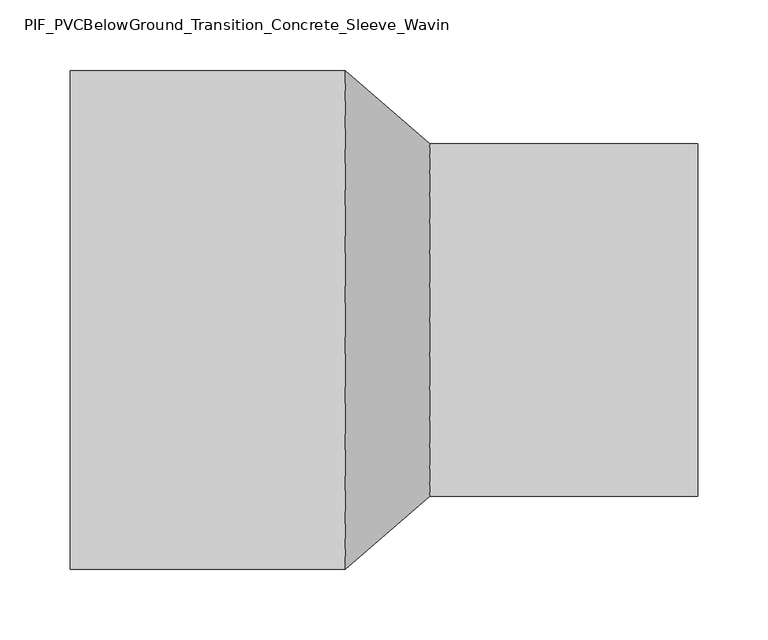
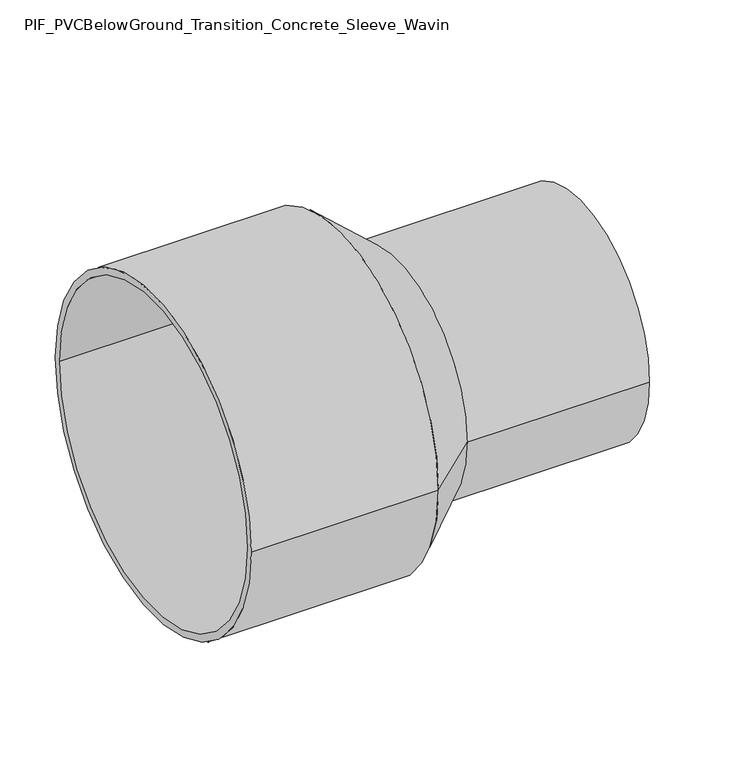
"""IFC4 building model written with IfcOpenShell, lengths in millimetres: pipe fitting geometry, PIF_PVCBelowGround_Transition_Concrete_Sleeve_Wavin : PVC Brown RAL8012 OD 250/400."""

from ifc_helpers import new_model, si_unit, frame, origin, place, context, project, spatial, polyline, circle_curve, source, transform, mapped, element, save
from ifc_brep_helpers import plane_surface, cylinder_surface, revolved_surface, advanced_brep


def pif_pvcbelowground_transition_concrete_sleeve_wavin_711183fe(model_context):
    return source(origin(), model_context, "Body", "AdvancedBrep", [
        advanced_brep(
        [(-195.0, -177.0, 0.0), (-195.0, 177.0, 0.0), (-195.0, -169.5, 0.0), (-195.0, 169.5, 0.0), (0.0, 177.0, 0.0), (0.0, -177.0, 0.0), (0.0, 169.5, 0.0), (0.0, -169.5, 0.0), (60.0, 117.7, 0.0), (60.0, -117.7, 0.0), (60.0, 125.0, 0.0), (60.0, -125.0, 0.0), (250.0, -125.0, 0.0), (250.0, 125.0, 0.0), (250.0, -117.7, 0.0), (250.0, 117.7, 0.0)],
        [
            (0, 1, circle_curve(frame((-195.0, 0.0, 0.0), z_axis=(-1.0, 0.0, 0.0), x_axis=(0.0, 1.0, 0.0)), 177.0)),
            (1, 0, circle_curve(frame((-195.0, 0.0, 0.0), z_axis=(-1.0, 0.0, 0.0), x_axis=(0.0, 1.0, 0.0)), 177.0)),
            (2, 3, circle_curve(frame((-195.0, 0.0, 0.0), z_axis=(1.0, 0.0, 0.0), x_axis=(0.0, 1.0, 0.0)), 169.5)),
            (3, 2, circle_curve(frame((-195.0, 0.0, 0.0), z_axis=(1.0, 0.0, 0.0), x_axis=(0.0, 1.0, 0.0)), 169.5)),
            (1, 4),
            (4, 5, circle_curve(frame((0.0, 0.0, 0.0), z_axis=(-1.0, 0.0, 0.0), x_axis=(0.0, 1.0, 0.0)), 177.0)),
            (5, 0),
            (5, 4, circle_curve(frame((0.0, 0.0, 0.0), z_axis=(-1.0, 0.0, 0.0), x_axis=(0.0, 1.0, 0.0)), 177.0)),
            (3, 6),
            (6, 7, circle_curve(frame((0.0, 0.0, 0.0), z_axis=(1.0, 0.0, 0.0), x_axis=(0.0, 1.0, 0.0)), 169.5)),
            (7, 2),
            (7, 6, circle_curve(frame((0.0, 0.0, 0.0), z_axis=(1.0, 0.0, 0.0), x_axis=(0.0, 1.0, 0.0)), 169.5)),
            (8, 9, circle_curve(frame((60.0, 0.0, 0.0), z_axis=(1.0, 0.0, 0.0), x_axis=(0.0, 1.0, 0.0)), 117.7)),
            (9, 8, circle_curve(frame((60.0, 0.0, 0.0), z_axis=(1.0, 0.0, 0.0), x_axis=(0.0, 1.0, 0.0)), 117.7)),
            (4, 10),
            (10, 11, circle_curve(frame((60.0, 0.0, 0.0), z_axis=(-1.0, 0.0, 0.0), x_axis=(0.0, -1.0, 0.0)), 125.0)),
            (11, 5),
            (11, 10, circle_curve(frame((60.0, 0.0, 0.0), z_axis=(-1.0, 0.0, 0.0), x_axis=(0.0, 1.0, 0.0)), 125.0)),
            (12, 13, circle_curve(frame((250.0, 0.0, 0.0), z_axis=(1.0, 0.0, 0.0), x_axis=(0.0, 1.0, 0.0)), 125.0)),
            (13, 12, circle_curve(frame((250.0, 0.0, 0.0), z_axis=(1.0, 0.0, 0.0), x_axis=(0.0, 1.0, 0.0)), 125.0)),
            (14, 15, circle_curve(frame((250.0, 0.0, 0.0), z_axis=(-1.0, 0.0, 0.0), x_axis=(0.0, 1.0, 0.0)), 117.7)),
            (15, 14, circle_curve(frame((250.0, 0.0, 0.0), z_axis=(-1.0, 0.0, 0.0), x_axis=(0.0, 1.0, 0.0)), 117.7)),
            (14, 9),
            (8, 15),
            (12, 11),
            (10, 13),
        ],
        [
            plane_surface(frame((-195.0, 177.0, 0.0), z_axis=(-1.0, 0.0, 0.0), x_axis=(0.0, 0.0, -1.0))),
            cylinder_surface(frame((-195.0, 0.0, 0.0), z_axis=(1.0, 0.0, 0.0), x_axis=(0.0, 1.0, 0.0)), 177.0),
            revolved_surface(polyline([(-195.0, 169.5, 0.0), (0.0, 169.5, 0.0)]), (-195.0, 0.0, 0.0), (-1.0, 0.0, 0.0)),
            plane_surface(frame((60.0, 0.0, 0.0), z_axis=(1.0, 0.0, 0.0), x_axis=(0.0, 0.0, -1.0))),
            plane_surface(frame((0.0, 0.0, 0.0), z_axis=(-1.0, 0.0, 0.0), x_axis=(0.0, 0.0, -1.0))),
            revolved_surface(polyline([(60.0, 124.99999999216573, 0.0), (0.0, 177.0, 0.0)]), (204.2307692, 0.0, 0.0), (-1.0, 0.0, 0.0)),
            plane_surface(frame((250.0, 117.7, 0.0), z_axis=(1.0, 0.0, 0.0), x_axis=(0.0, 0.0, -1.0))),
            revolved_surface(polyline([(60.0, 117.7, 0.0), (250.0, 117.7, 0.0)]), (60.0, 0.0, 0.0), (-1.0, 0.0, 0.0)),
            cylinder_surface(frame((250.0, 0.0, 0.0), z_axis=(1.0, 0.0, 0.0), x_axis=(0.0, 1.0, 0.0)), 125.0),
        ],
        [
            (0, [[1, 2], [3, 4]]),
            (1, [[-2, 5, 6, 7]]),
            (1, [[-1, -7, 8, -5]]),
            (2, [[-4, 9, 10, 11]]),
            (2, [[-3, -11, 12, -9]]),
            (3, [[13, 14]]),
            (4, [[-10, -12]]),
            (5, [[15, 16, 17, -6]]),
            (5, [[-15, -8, -17, 18]]),
            (6, [[19, 20], [21, 22]]),
            (7, [[-21, 23, -13, 24]]),
            (7, [[-22, -24, -14, -23]]),
            (8, [[-19, 25, -16, 26]]),
            (8, [[-20, -26, -18, -25]]),
        ],
    ),
    ])


if __name__ == "__main__":
    model = new_model("IFC4")
    model_context = context("Model", 3, world=origin())
    ifc_project = project(units=[si_unit("LENGTHUNIT", "METRE", prefix="MILLI")], contexts=[model_context])
    site = spatial("IfcSite", under=ifc_project)
    building = spatial("IfcBuilding", under=site)
    placement = place(None, origin())
    pif_pvcbelowground_transition_concrete_sleeve_wavin_shape = pif_pvcbelowground_transition_concrete_sleeve_wavin_711183fe(model_context)
    element("IfcPipeFitting", 1, ObjectType="PIF_PVCBelowGround_Transition_Concrete_Sleeve_Wavin : PVC Brown RAL8012 OD 250/400", at=placement, inside=building, context=model_context, shape_type="MappedRepresentation", body=[
        mapped(pif_pvcbelowground_transition_concrete_sleeve_wavin_shape, transform((0.0, 0.0, 0.0), x_axis=(1.0, 0.0, 0.0), y_axis=(0.0, 1.0, 0.0), z_axis=(0.0, 0.0, 1.0))),
    ])
    save(model, "model.ifc")
